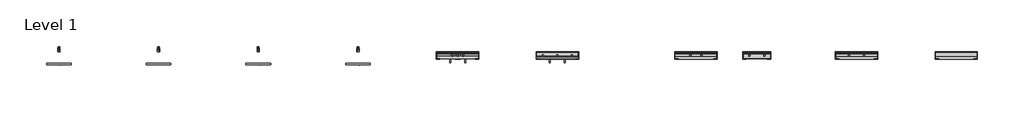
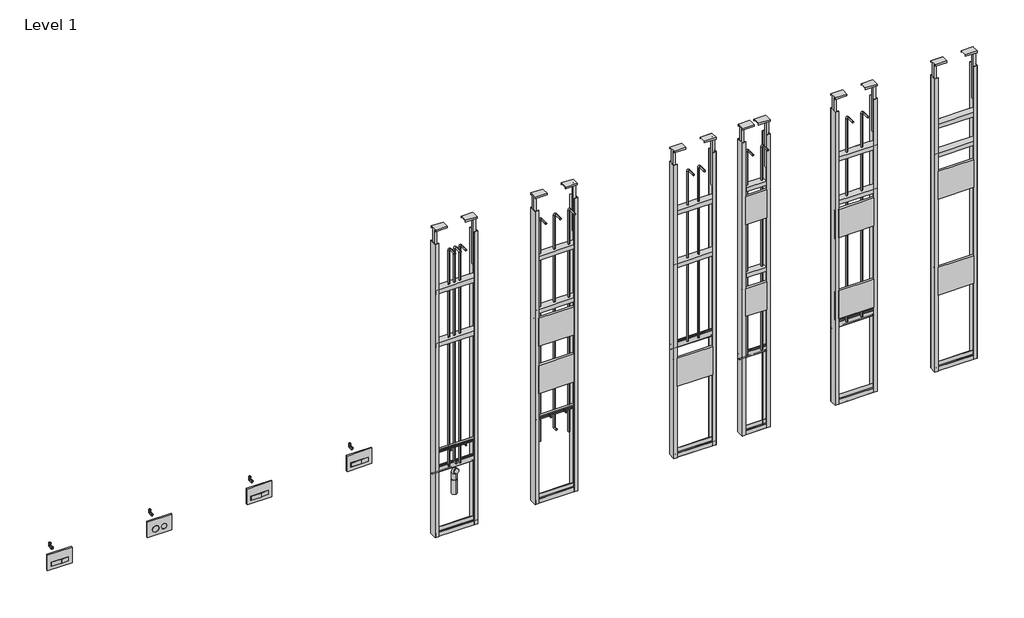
# One storey, incomplete: 10 flow terminals, 4 pipe fittings.
"""IFC4 building model written with IfcOpenShell, lengths in millimetres."""

from ifc_helpers import new_model, si_unit, origin, place, context, project, spatial, transform, mapped, element, save
from components import flow_terminal_3ace58d7, flow_terminal_cd35f01a, flow_terminal_0f4a6ba9, flow_terminal_25b9c78a, flow_terminal_8f664da8, asm_douche_type_a_63d58c08, asm_douche_type_b_63ba360f, asm_douche_type_c_48a24752, std_c562ad17

model = new_model("IFC4")

# Units and contexts
model_context = context("Model", 3, world=origin())
ifc_project = project(units=[si_unit("LENGTHUNIT", "METRE", prefix="MILLI")], contexts=[model_context])

# Site, building, storey
site = spatial("IfcSite", under=ifc_project)
building = spatial("IfcBuilding", under=site)
storey = spatial("IfcBuildingStorey", under=building, Name="Level 1", Elevation=0.0)

# Flow terminals
placement = place(None, origin())
flow_terminal_shape = flow_terminal_3ace58d7(model_context)
element("IfcFlowTerminal", 1, ObjectType="NLRS_74_PF_WPB_bedieningsplaat Sigma 20_Geberit : gr/kl spoeling mat/glans/matchr", at=placement, inside=storey, context=model_context, shape_type="MappedRepresentation", body=[
    mapped(flow_terminal_shape, transform((1696.9240048, 2267.6049161, 1084.0), x_axis=(1.0, 0.0, 0.0), y_axis=(0.0, 0.0, 1.0), z_axis=(0.0, -1.0, 0.0))),
])
flow_terminal_2_shape = flow_terminal_cd35f01a(model_context)
element("IfcFlowTerminal", 2, ObjectType="NLRS_74_PF_TLB_ASM WST Type C wandmengkraan_Geberit : ASM WST Type C", at=placement, inside=storey, context=model_context, shape_type="MappedRepresentation", body=[
    mapped(flow_terminal_2_shape, transform((6265.460586, 2307.1049161, 0.0), x_axis=(1.0, 0.0, 0.0), y_axis=(0.0, 1.0, 0.0), z_axis=(0.0, 0.0, 1.0))),
])
flow_terminal_3_shape = flow_terminal_0f4a6ba9(model_context)
element("IfcFlowTerminal", 3, ObjectType="NLRS_74_PF_TLB_ASM WST Type B spiegel-planchet_Geberit : ASM WST Type B", at=placement, inside=storey, context=model_context, shape_type="MappedRepresentation", body=[
    mapped(flow_terminal_3_shape, transform((4877.3425124, 2307.1049161, 0.0), x_axis=(1.0, 0.0, 0.0), y_axis=(0.0, 1.0, 0.0), z_axis=(0.0, 0.0, 1.0))),
])
flow_terminal_4_shape = flow_terminal_25b9c78a(model_context)
element("IfcFlowTerminal", 4, ObjectType="NLRS_74_PF_TLB_ASM WST Type A_Geberit : ASM WST Type A", at=placement, inside=storey, context=model_context, shape_type="MappedRepresentation", body=[
    mapped(flow_terminal_4_shape, transform((3877.3425124, 2307.1049161, 0.0), x_axis=(1.0, 0.0, 0.0), y_axis=(0.0, 1.0, 0.0), z_axis=(0.0, 0.0, 1.0))),
])
flow_terminal_5_shape = flow_terminal_8f664da8(model_context)
element("IfcFlowTerminal", 5, ObjectType="NLRS_74_PF_WPB_bedieningsplaat Sigma 50_Geberit : gr/kl spoeling rookglas spiegelend", at=placement, inside=storey, context=model_context, shape_type="MappedRepresentation", body=[
    mapped(flow_terminal_5_shape, transform((696.9240048, 2267.6049161, 1084.0), x_axis=(1.0, 0.0, 0.0), y_axis=(0.0, 0.0, 1.0), z_axis=(0.0, -1.0, 0.0))),
])
element("IfcFlowTerminal", 6, ObjectType="NLRS_74_PF_WPB_bedieningsplaat Sigma 50_Geberit : gr/kl spoeling rookglas spiegelend", at=placement, inside=storey, context=model_context, shape_type="MappedRepresentation", body=[
    mapped(flow_terminal_5_shape, transform((2696.9240048, 2267.6049161, 1084.0), x_axis=(1.0, 0.0, 0.0), y_axis=(0.0, 0.0, 1.0), z_axis=(0.0, -1.0, 0.0))),
])
element("IfcFlowTerminal", 7, ObjectType="NLRS_74_PF_WPB_bedieningsplaat Sigma 50_Geberit : gr/kl spoeling rookglas spiegelend", at=placement, inside=storey, context=model_context, shape_type="MappedRepresentation", body=[
    mapped(flow_terminal_5_shape, transform((3696.9240048, 2267.6049161, 1084.0), x_axis=(1.0, 0.0, 0.0), y_axis=(0.0, 0.0, 1.0), z_axis=(0.0, -1.0, 0.0))),
])
asm_douche_type_a_shape = asm_douche_type_a_63d58c08(model_context)
element("IfcFlowTerminal", 8, ObjectType="NLRS_74_PF_TLB_ASM Douche Type A glijstang_Geberit : ASM Douche Type A", at=placement, inside=storey, context=model_context, shape_type="MappedRepresentation", body=[
    mapped(asm_douche_type_a_shape, transform((6877.3425124, 2307.1049161, 0.0), x_axis=(1.0, 0.0, 0.0), y_axis=(0.0, 1.0, 0.0), z_axis=(0.0, 0.0, 1.0))),
])
asm_douche_type_b_shape = asm_douche_type_b_63ba360f(model_context)
element("IfcFlowTerminal", 9, ObjectType="NLRS_74_PF_TLB_ASM Douche Type B glijstang-greep_Geberit : ASM Douche Type B", at=placement, inside=storey, context=model_context, shape_type="MappedRepresentation", body=[
    mapped(asm_douche_type_b_shape, transform((7877.3425124, 2307.1049161, 0.0), x_axis=(1.0, 0.0, 0.0), y_axis=(0.0, 1.0, 0.0), z_axis=(0.0, 0.0, 1.0))),
])
asm_douche_type_c_shape = asm_douche_type_c_48a24752(model_context)
element("IfcFlowTerminal", 10, ObjectType="NLRS_74_PF_TLB_ASM Douche Type C greep-zitje_Geberit : ASM Douche Type C", at=placement, inside=storey, context=model_context, shape_type="MappedRepresentation", body=[
    mapped(asm_douche_type_c_shape, transform((8877.3425124, 2307.1049161, 0.0), x_axis=(1.0, 0.0, 0.0), y_axis=(0.0, 1.0, 0.0), z_axis=(0.0, 0.0, 1.0))),
])

# Pipe fittings
std_shape = std_c562ad17(model_context)
element("IfcPipeFitting", 11, ObjectType="NLRS_53_PIF_UN_mapress koper overgangsknie fixadapter_Geberit : std", at=placement, inside=storey, context=model_context, shape_type="MappedRepresentation", body=[
    mapped(std_shape, transform((696.9240048, 2422.6049161, 1121.6824779), x_axis=(0.0, -1.0, 0.0), y_axis=(0.0, 0.0, -1.0000000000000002), z_axis=(1.0000000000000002, 0.0, 0.0))),
])
element("IfcPipeFitting", 12, ObjectType="NLRS_53_PIF_UN_mapress koper overgangsknie fixadapter_Geberit : std", at=placement, inside=storey, context=model_context, shape_type="MappedRepresentation", body=[
    mapped(std_shape, transform((1696.9240048, 2422.6049161, 1121.6824779), x_axis=(0.0, -1.0, 0.0), y_axis=(0.0, 0.0, -1.0000000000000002), z_axis=(1.0000000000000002, 0.0, 0.0))),
])
element("IfcPipeFitting", 13, ObjectType="NLRS_53_PIF_UN_mapress koper overgangsknie fixadapter_Geberit : std", at=placement, inside=storey, context=model_context, shape_type="MappedRepresentation", body=[
    mapped(std_shape, transform((2696.9240048, 2422.6049161, 1121.6824779), x_axis=(0.0, -1.0, 0.0), y_axis=(0.0, 0.0, -1.0000000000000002), z_axis=(1.0000000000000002, 0.0, 0.0))),
])
element("IfcPipeFitting", 14, ObjectType="NLRS_53_PIF_UN_mapress koper overgangsknie fixadapter_Geberit : std", at=placement, inside=storey, context=model_context, shape_type="MappedRepresentation", body=[
    mapped(std_shape, transform((3696.9240048, 2422.6049161, 1121.6824779), x_axis=(0.0, -1.0, 0.0), y_axis=(0.0, 0.0, -1.0000000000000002), z_axis=(1.0000000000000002, 0.0, 0.0))),
])

save(model, "model.ifc")
